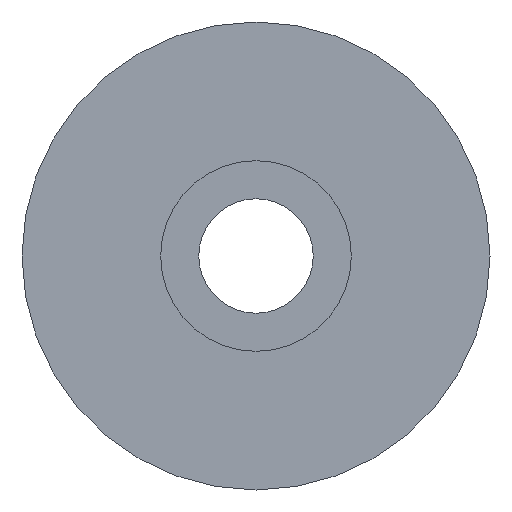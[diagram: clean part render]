
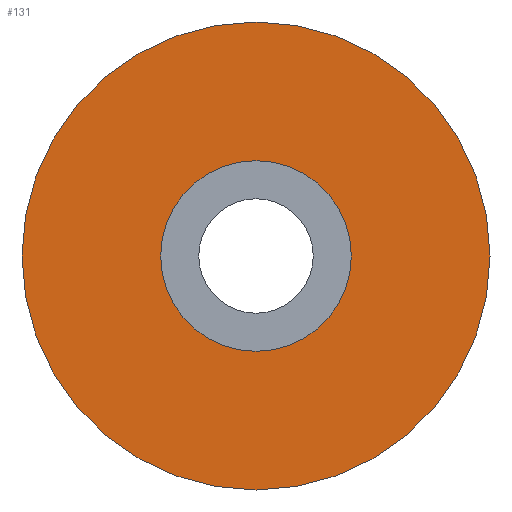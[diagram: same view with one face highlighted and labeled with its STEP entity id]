
A CAD part, left-side view. The second image highlights one B-rep face of the part: STEP entity #131.
In plain terms, the highlighted planar face has unit normal (-1, 0, 0).
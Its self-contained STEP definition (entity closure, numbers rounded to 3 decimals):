
#32=FACE_BOUND('',#52,.T.);
#40=FACE_OUTER_BOUND('',#51,.T.);
#51=EDGE_LOOP('',(#113));
#52=EDGE_LOOP('',(#114));
#58=CIRCLE('',#161,5.5);
#64=CIRCLE('',#172,13.5);
#68=VERTEX_POINT('',#228);
#74=VERTEX_POINT('',#249);
#78=EDGE_CURVE('',#68,#68,#58,.T.);
#88=EDGE_CURVE('',#74,#74,#64,.T.);
#113=ORIENTED_EDGE('',*,*,#88,.F.);
#114=ORIENTED_EDGE('',*,*,#78,.T.);
#123=PLANE('',#171);
#131=ADVANCED_FACE('',(#40,#32),#123,.T.);
#161=AXIS2_PLACEMENT_3D('',#229,#186,#187);
#171=AXIS2_PLACEMENT_3D('',#248,#210,#211);
#172=AXIS2_PLACEMENT_3D('',#250,#212,#213);
#186=DIRECTION('center_axis',(1.,0.,0.));
#187=DIRECTION('ref_axis',(0.,0.,1.));
#210=DIRECTION('center_axis',(-1.,0.,0.));
#211=DIRECTION('ref_axis',(0.,0.,1.));
#212=DIRECTION('center_axis',(1.,0.,0.));
#213=DIRECTION('ref_axis',(0.,0.,-1.));
#228=CARTESIAN_POINT('',(0.,0.,-5.5));
#229=CARTESIAN_POINT('Origin',(0.,0.,0.));
#248=CARTESIAN_POINT('Origin',(0.,13.5,0.));
#249=CARTESIAN_POINT('',(0.,-13.5,0.));
#250=CARTESIAN_POINT('Origin',(0.,0.,0.));
